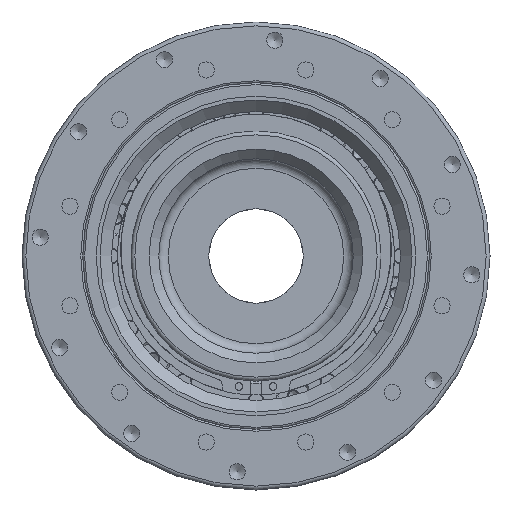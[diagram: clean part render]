
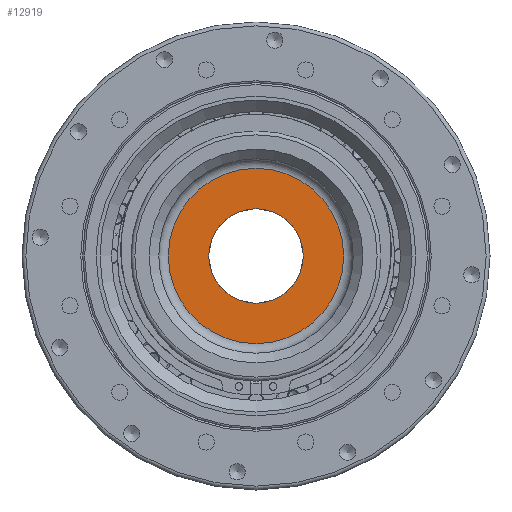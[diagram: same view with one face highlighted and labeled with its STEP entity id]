
A CAD part, left-side view. The second image highlights one B-rep face of the part: STEP entity #12919.
In plain terms, the highlighted planar face has unit normal (-1, 0, 0).
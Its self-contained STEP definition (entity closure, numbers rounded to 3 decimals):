
#1732=PLANE('',#13960);
#2354=ORIENTED_EDGE('',*,*,#5857,.F.);
#2355=ORIENTED_EDGE('',*,*,#5856,.T.);
#5856=EDGE_CURVE('',#7618,#7618,#8940,.T.);
#5857=EDGE_CURVE('',#7619,#7619,#8941,.T.);
#7618=VERTEX_POINT('',#20115);
#7619=VERTEX_POINT('',#20118);
#8940=CIRCLE('',#13959,45.5);
#8941=CIRCLE('',#13961,24.5);
#9873=EDGE_LOOP('',(#2354));
#9874=EDGE_LOOP('',(#2355));
#11355=FACE_BOUND('',#9873,.T.);
#11356=FACE_BOUND('',#9874,.T.);
#12919=ADVANCED_FACE('',(#11355,#11356),#1732,.T.);
#13959=AXIS2_PLACEMENT_3D('',#20114,#15908,#15909);
#13960=AXIS2_PLACEMENT_3D('',#20116,#15910,#15911);
#13961=AXIS2_PLACEMENT_3D('',#20117,#15912,#15913);
#15908=DIRECTION('',(-1.,0.,0.));
#15909=DIRECTION('',(0.,0.,1.));
#15910=DIRECTION('',(-1.,0.,0.));
#15911=DIRECTION('',(0.,0.,1.));
#15912=DIRECTION('',(-1.,0.,0.));
#15913=DIRECTION('',(0.,0.,1.));
#20114=CARTESIAN_POINT('',(70.65,0.,0.));
#20115=CARTESIAN_POINT('',(70.65,0.,45.5));
#20116=CARTESIAN_POINT('',(70.65,0.,50.5));
#20117=CARTESIAN_POINT('',(70.65,0.,0.));
#20118=CARTESIAN_POINT('',(70.65,0.,24.5));
